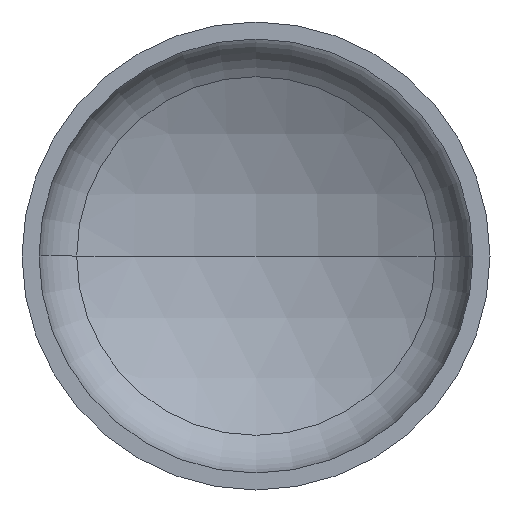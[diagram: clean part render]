
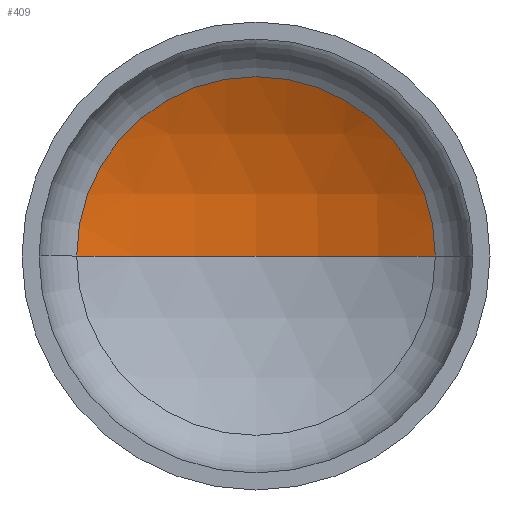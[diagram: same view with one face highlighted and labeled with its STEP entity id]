
A CAD part, front view. The second image highlights one B-rep face of the part: STEP entity #409.
In plain terms, the highlighted spherical face has radius 1760 mm.
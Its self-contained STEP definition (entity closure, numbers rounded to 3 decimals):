
#17 = AXIS2_PLACEMENT_3D ( 'NONE', #220, #325, #326 ) ;
#19 = VERTEX_POINT ( 'NONE', #55 ) ;
#27 = ORIENTED_EDGE ( 'NONE', *, *, #105, .T. ) ;
#34 = EDGE_LOOP ( 'NONE', ( #336, #27, #141 ) ) ;
#45 = AXIS2_PLACEMENT_3D ( 'NONE', #393, #394, #247 ) ;
#51 = AXIS2_PLACEMENT_3D ( 'NONE', #244, #241, #269 ) ;
#55 = CARTESIAN_POINT ( 'NONE',  ( 0., 633.405, 0. ) ) ;
#97 = EDGE_CURVE ( 'NONE', #134, #124, #314, .T. ) ;
#105 = EDGE_CURVE ( 'NONE', #19, #134, #254, .T. ) ;
#118 = CARTESIAN_POINT ( 'NONE',  ( 0., -1126.595, 0. ) ) ;
#124 = VERTEX_POINT ( 'NONE', #388 ) ;
#134 = VERTEX_POINT ( 'NONE', #225 ) ;
#141 = ORIENTED_EDGE ( 'NONE', *, *, #97, .T. ) ;
#173 = DIRECTION ( 'NONE',  ( -1., 0., 0. ) ) ;
#220 = CARTESIAN_POINT ( 'NONE',  ( 0., -1126.595, 0. ) ) ;
#222 = CIRCLE ( 'NONE', #17, 1760. ) ;
#225 = CARTESIAN_POINT ( 'NONE',  ( 842.817, 418.481, 0. ) ) ;
#241 = DIRECTION ( 'NONE',  ( 0., -1., 0. ) ) ;
#244 = CARTESIAN_POINT ( 'NONE',  ( 0., 418.481, 0. ) ) ;
#247 = DIRECTION ( 'NONE',  ( -1., 0., 0. ) ) ;
#254 = CIRCLE ( 'NONE', #45, 1760. ) ;
#257 = SPHERICAL_SURFACE ( 'NONE', #296, 1760. ) ;
#269 = DIRECTION ( 'NONE',  ( 1., 0., 0. ) ) ;
#294 = DIRECTION ( 'NONE',  ( 0., 0., -1. ) ) ;
#296 = AXIS2_PLACEMENT_3D ( 'NONE', #118, #294, #173 ) ;
#314 = CIRCLE ( 'NONE', #51, 842.817 ) ;
#325 = DIRECTION ( 'NONE',  ( 0., 0., 1. ) ) ;
#326 = DIRECTION ( 'NONE',  ( 1., 0., 0. ) ) ;
#336 = ORIENTED_EDGE ( 'NONE', *, *, #356, .F. ) ;
#356 = EDGE_CURVE ( 'NONE', #19, #124, #222, .T. ) ;
#371 = FACE_OUTER_BOUND ( 'NONE', #34, .T. ) ;
#388 = CARTESIAN_POINT ( 'NONE',  ( -842.817, 418.481, 0. ) ) ;
#393 = CARTESIAN_POINT ( 'NONE',  ( 0., -1126.595, 0. ) ) ;
#394 = DIRECTION ( 'NONE',  ( 0., 0., -1. ) ) ;
#409 = ADVANCED_FACE ( 'NONE', ( #371 ), #257, .F. ) ;
